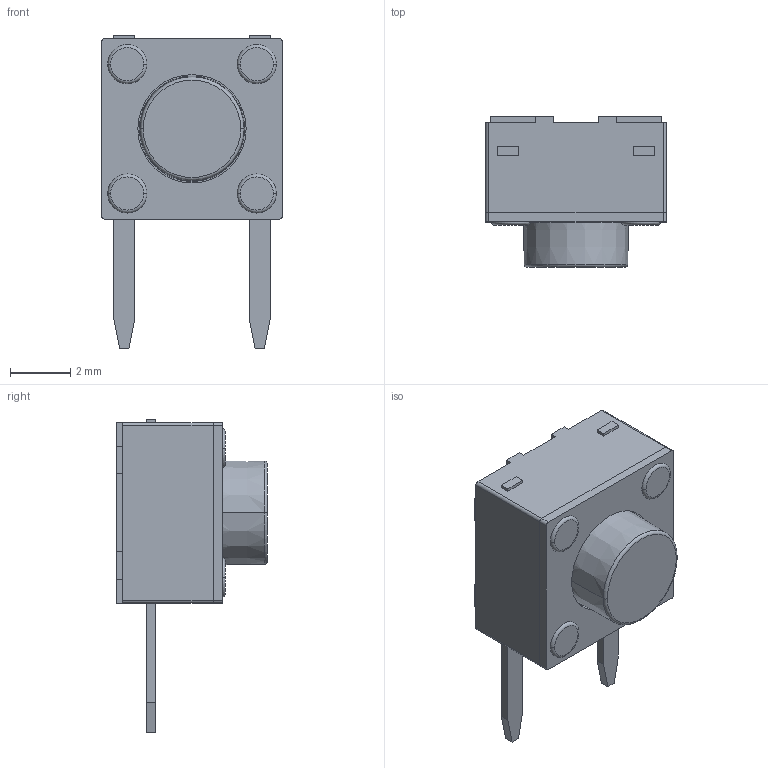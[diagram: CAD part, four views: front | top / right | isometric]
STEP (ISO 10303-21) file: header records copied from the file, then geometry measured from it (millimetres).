
FILE_DESCRIPTION((''),'2;1');
FILE_NAME('JQF6060AF-C0751-01EG-101_ASM','2026-05-26T10:22:56',('Admin'),(''),'CREO PARAMETRIC BY PTC INC, 2019224','CREO PARAMETRIC BY PTC INC, 2019224','');
FILE_SCHEMA(('AUTOMOTIVE_DESIGN { 1 0 10303 214 1 1 1 1 }'));
Length unit declared in the file: millimetre
Products named in the file (3): JQF6060AF-C0751-01EG-101_04; JQF6060AF-C0751-01EG-101_05; JQF6060AF-C0751-01EG-101_ASM
Assembly tree (2 placements, depth 2):
  JQF6060AF-C0751-01EG-101_ASM
    JQF6060AF-C0751-01EG-101_04
    JQF6060AF-C0751-01EG-101_05
Bounding box: 6 x 5 x 10.4 mm (x, y, z)
Volume: 138.1 mm3; surface area: 261.6 mm2
Topology: 2 solids, 2 shells, 107 faces, 266 edges, 182 vertices
Faces by surface type: plane 69, cylinder 26, torus 10, cone 2
Entity records: 4361 total; most frequent: DIRECTION 578, CARTESIAN_POINT 561, ORIENTED_EDGE 520, PRESENTATION_STYLE_ASSIGNMENT 262, EDGE_CURVE 260, STYLED_ITEM 240, CURVE_STYLE 239, AXIS2_PLACEMENT_3D 194
